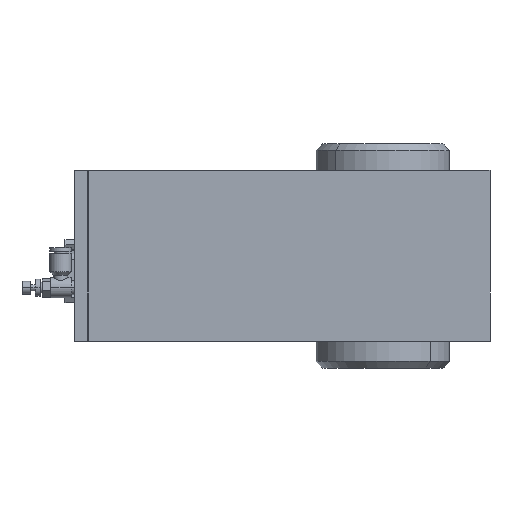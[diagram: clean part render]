
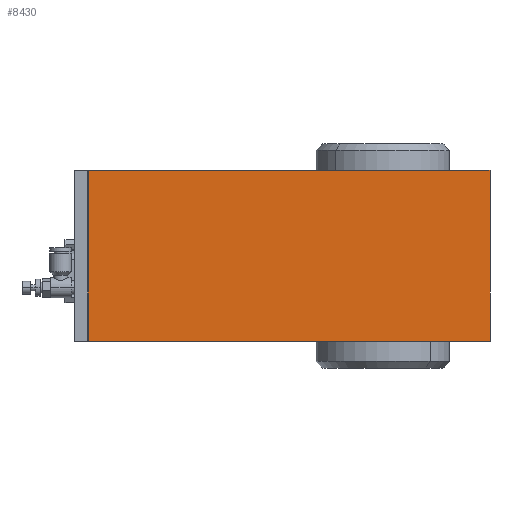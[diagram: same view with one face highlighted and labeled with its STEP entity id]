
A CAD part, top view. The second image highlights one B-rep face of the part: STEP entity #8430.
In plain terms, the highlighted planar face has unit normal (0, 0, 1).
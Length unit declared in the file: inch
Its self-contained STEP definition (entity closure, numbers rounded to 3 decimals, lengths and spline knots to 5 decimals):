
#37 = VECTOR ( 'NONE', #3632, 39.37008 ) ;
#311 = VERTEX_POINT ( 'NONE', #1644 ) ;
#847 = FACE_OUTER_BOUND ( 'NONE', #2704, .T. ) ;
#1014 = DIRECTION ( 'NONE',  ( -1., 0., 0. ) ) ;
#1644 = CARTESIAN_POINT ( 'NONE',  ( 5.72152, 2.40341, 7.25898 ) ) ;
#2020 = EDGE_CURVE ( 'NONE', #7925, #311, #7130, .T. ) ;
#2028 = ORIENTED_EDGE ( 'NONE', *, *, #4782, .T. ) ;
#2371 = LINE ( 'NONE', #7932, #7491 ) ;
#2704 = EDGE_LOOP ( 'NONE', ( #4276, #7008, #7193, #2028 ) ) ;
#2829 = VECTOR ( 'NONE', #4184, 39.37008 ) ;
#3013 = CARTESIAN_POINT ( 'NONE',  ( -1.77848, 5.59091, 7.25898 ) ) ;
#3315 = EDGE_CURVE ( 'NONE', #311, #7809, #4592, .T. ) ;
#3351 = CARTESIAN_POINT ( 'NONE',  ( -1.77848, 2.40341, 7.25898 ) ) ;
#3490 = CARTESIAN_POINT ( 'NONE',  ( 5.72152, 5.59091, 7.25898 ) ) ;
#3632 = DIRECTION ( 'NONE',  ( 1., 0., 0. ) ) ;
#3949 = DIRECTION ( 'NONE',  ( 0., -1., 0. ) ) ;
#3974 = DIRECTION ( 'NONE',  ( -1., 0., 0. ) ) ;
#4115 = VECTOR ( 'NONE', #1014, 39.37008 ) ;
#4184 = DIRECTION ( 'NONE',  ( 0., 1., 0. ) ) ;
#4276 = ORIENTED_EDGE ( 'NONE', *, *, #5070, .T. ) ;
#4592 = LINE ( 'NONE', #5514, #2829 ) ;
#4782 = EDGE_CURVE ( 'NONE', #7809, #5523, #8066, .T. ) ;
#5070 = EDGE_CURVE ( 'NONE', #5523, #7925, #2371, .T. ) ;
#5514 = CARTESIAN_POINT ( 'NONE',  ( 5.72152, 2.40341, 7.25898 ) ) ;
#5523 = VERTEX_POINT ( 'NONE', #7320 ) ;
#6042 = CARTESIAN_POINT ( 'NONE',  ( -1.77848, 2.40341, 7.25898 ) ) ;
#6049 = AXIS2_PLACEMENT_3D ( 'NONE', #8592, #7965, #3974 ) ;
#7008 = ORIENTED_EDGE ( 'NONE', *, *, #2020, .T. ) ;
#7130 = LINE ( 'NONE', #6042, #37 ) ;
#7193 = ORIENTED_EDGE ( 'NONE', *, *, #3315, .T. ) ;
#7320 = CARTESIAN_POINT ( 'NONE',  ( -1.77848, 5.59091, 7.25898 ) ) ;
#7491 = VECTOR ( 'NONE', #3949, 39.37008 ) ;
#7809 = VERTEX_POINT ( 'NONE', #3490 ) ;
#7925 = VERTEX_POINT ( 'NONE', #3351 ) ;
#7932 = CARTESIAN_POINT ( 'NONE',  ( -1.77848, 2.40341, 7.25898 ) ) ;
#7933 = PLANE ( 'NONE',  #6049 ) ;
#7965 = DIRECTION ( 'NONE',  ( 0., 0., -1. ) ) ;
#8066 = LINE ( 'NONE', #3013, #4115 ) ;
#8430 = ADVANCED_FACE ( 'NONE', ( #847 ), #7933, .F. ) ;
#8592 = CARTESIAN_POINT ( 'NONE',  ( -1.77848, 5.59091, 7.25898 ) ) ;
